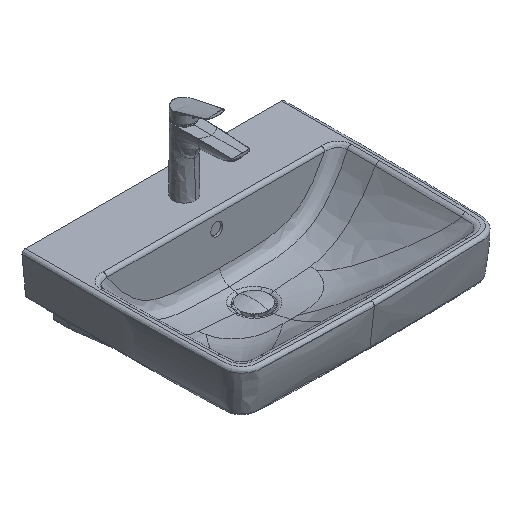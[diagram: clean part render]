
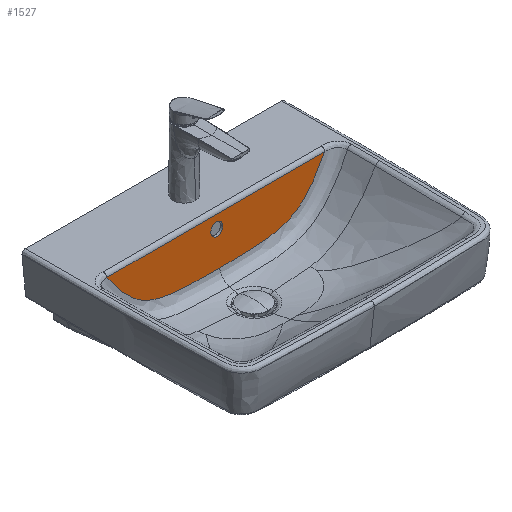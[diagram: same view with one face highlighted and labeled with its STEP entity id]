
A CAD part, isometric view. The second image highlights one B-rep face of the part: STEP entity #1527.
In plain terms, the highlighted planar face has unit normal (0, -0.996, 0.087).
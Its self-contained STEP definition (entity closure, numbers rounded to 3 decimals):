
#452=B_SPLINE_CURVE_WITH_KNOTS('',1,(#87740,#87741),.UNSPECIFIED.,.F.,.F.,
(2,2),(0.,453.553),.UNSPECIFIED.);
#529=B_SPLINE_CURVE_WITH_KNOTS('',3,(#89973,#89974,#89975,#89976,#89977,
#89978,#89979,#89980,#89981,#89982,#89983,#89984,#89985,#89986,#89987,#89988,
#89989,#89990,#89991,#89992,#89993,#89994,#89995,#89996,#89997,#89998,#89999,
#90000,#90001,#90002,#90003,#90004),.UNSPECIFIED.,.F.,.F.,(4,2,2,2,2,2,
2,2,2,2,2,2,2,2,2,4),(114.389,137.796,161.203,
184.609,196.313,208.016,231.423,254.829,
278.236,301.643,348.456,395.269,418.676,
442.082,465.489,488.896),.UNSPECIFIED.);
#583=B_SPLINE_CURVE_WITH_KNOTS('',3,(#90744,#90745,#90746,#90747,#90748,
#90749,#90750,#90751,#90752,#90753,#90754,#90755,#90756,#90757,#90758,#90759,
#90760,#90761,#90762,#90763,#90764,#90765,#90766,#90767,#90768,#90769,#90770,
#90771,#90772,#90773,#90774,#90775),.UNSPECIFIED.,.F.,.F.,(4,2,2,2,2,2,
2,2,2,2,2,2,2,2,2,4),(114.389,137.796,161.203,
184.609,196.313,208.016,231.423,254.829,
278.236,301.643,348.456,395.269,418.676,
442.082,465.489,488.896),.UNSPECIFIED.);
#1527=ADVANCED_FACE('',(#2055,#1683),#7541,.T.);
#1683=FACE_BOUND('',#2571,.T.);
#2055=FACE_OUTER_BOUND('',#2570,.T.);
#2570=EDGE_LOOP('',(#4455,#4456,#4457));
#2571=EDGE_LOOP('',(#4458,#4459));
#4455=ORIENTED_EDGE('',*,*,#5551,.T.);
#4456=ORIENTED_EDGE('',*,*,#5481,.F.);
#4457=ORIENTED_EDGE('',*,*,#5399,.F.);
#4458=ORIENTED_EDGE('',*,*,#5962,.T.);
#4459=ORIENTED_EDGE('',*,*,#5960,.T.);
#5399=EDGE_CURVE('',#6816,#6817,#452,.T.);
#5481=EDGE_CURVE('',#6817,#6884,#529,.T.);
#5551=EDGE_CURVE('',#6816,#6884,#583,.T.);
#5960=EDGE_CURVE('',#7088,#7089,#6433,.T.);
#5962=EDGE_CURVE('',#7089,#7088,#6435,.T.);
#6433=(
BOUNDED_CURVE()
B_SPLINE_CURVE(2,(#95838,#95839,#95840,#95841,#95842),.UNSPECIFIED.,.F.,
 .F.)
B_SPLINE_CURVE_WITH_KNOTS((3,2,3),(-39.27,-19.635,
0.),.UNSPECIFIED.)
CURVE()
GEOMETRIC_REPRESENTATION_ITEM()
RATIONAL_B_SPLINE_CURVE((1.,0.707,1.,0.707,1.))
REPRESENTATION_ITEM('')
);
#6435=(
BOUNDED_CURVE()
B_SPLINE_CURVE(2,(#95848,#95849,#95850,#95851,#95852),.UNSPECIFIED.,.F.,
 .F.)
B_SPLINE_CURVE_WITH_KNOTS((3,2,3),(-39.27,-19.635,
0.),.UNSPECIFIED.)
CURVE()
GEOMETRIC_REPRESENTATION_ITEM()
RATIONAL_B_SPLINE_CURVE((1.,0.707,1.,0.707,1.))
REPRESENTATION_ITEM('')
);
#6816=VERTEX_POINT('',#85997);
#6817=VERTEX_POINT('',#85998);
#6884=VERTEX_POINT('',#86065);
#7088=VERTEX_POINT('',#86269);
#7089=VERTEX_POINT('',#86270);
#7541=PLANE('',#7639);
#7639=AXIS2_PLACEMENT_3D('',#85775,#7721,$);
#7721=DIRECTION('',(0.,-0.996,0.087));
#85775=CARTESIAN_POINT('',(275.18,91.163,-113.855));
#85997=CARTESIAN_POINT('',(-223.787,100.054,-12.239));
#85998=CARTESIAN_POINT('',(229.765,100.054,-12.239));
#86065=CARTESIAN_POINT('',(2.989,91.977,-104.559));
#86269=CARTESIAN_POINT('',(-9.511,97.87,-37.197));
#86270=CARTESIAN_POINT('',(15.489,97.87,-37.197));
#87740=CARTESIAN_POINT('',(-223.787,100.054,-12.239));
#87741=CARTESIAN_POINT('',(229.765,100.054,-12.239));
#89973=CARTESIAN_POINT('',(229.765,100.054,-12.239));
#89974=CARTESIAN_POINT('',(226.772,99.63,-17.082));
#89975=CARTESIAN_POINT('',(223.654,99.217,-21.801));
#89976=CARTESIAN_POINT('',(217.203,98.414,-30.982));
#89977=CARTESIAN_POINT('',(213.863,98.023,-35.446));
#89978=CARTESIAN_POINT('',(206.975,97.266,-44.1));
#89979=CARTESIAN_POINT('',(203.46,96.902,-48.262));
#89980=CARTESIAN_POINT('',(197.941,96.369,-54.349));
#89981=CARTESIAN_POINT('',(196.096,96.197,-56.316));
#89982=CARTESIAN_POINT('',(192.355,95.859,-60.183));
#89983=CARTESIAN_POINT('',(190.467,95.694,-62.07));
#89984=CARTESIAN_POINT('',(184.726,95.214,-67.559));
#89985=CARTESIAN_POINT('',(180.785,94.914,-70.989));
#89986=CARTESIAN_POINT('',(172.684,94.365,-77.263));
#89987=CARTESIAN_POINT('',(168.507,94.116,-80.108));
#89988=CARTESIAN_POINT('',(159.891,93.671,-85.186));
#89989=CARTESIAN_POINT('',(155.452,93.476,-87.42));
#89990=CARTESIAN_POINT('',(146.305,93.135,-91.318));
#89991=CARTESIAN_POINT('',(141.599,92.989,-92.984));
#89992=CARTESIAN_POINT('',(127.022,92.614,-97.277));
#89993=CARTESIAN_POINT('',(116.617,92.444,-99.213));
#89994=CARTESIAN_POINT('',(94.743,92.212,-101.863));
#89995=CARTESIAN_POINT('',(83.379,92.149,-102.589));
#89996=CARTESIAN_POINT('',(66.201,92.082,-103.354));
#89997=CARTESIAN_POINT('',(60.442,92.064,-103.555));
#89998=CARTESIAN_POINT('',(48.888,92.034,-103.904));
#89999=CARTESIAN_POINT('',(43.097,92.021,-104.052));
#90000=CARTESIAN_POINT('',(31.538,91.999,-104.303));
#90001=CARTESIAN_POINT('',(25.777,91.99,-104.402));
#90002=CARTESIAN_POINT('',(14.344,91.98,-104.52));
#90003=CARTESIAN_POINT('',(8.683,91.979,-104.536));
#90004=CARTESIAN_POINT('',(2.989,91.977,-104.559));
#90744=CARTESIAN_POINT('',(-223.787,100.054,-12.239));
#90745=CARTESIAN_POINT('',(-220.794,99.63,-17.082));
#90746=CARTESIAN_POINT('',(-217.676,99.217,-21.801));
#90747=CARTESIAN_POINT('',(-211.225,98.414,-30.982));
#90748=CARTESIAN_POINT('',(-207.886,98.023,-35.446));
#90749=CARTESIAN_POINT('',(-200.997,97.266,-44.1));
#90750=CARTESIAN_POINT('',(-197.483,96.902,-48.262));
#90751=CARTESIAN_POINT('',(-191.964,96.369,-54.349));
#90752=CARTESIAN_POINT('',(-190.119,96.197,-56.316));
#90753=CARTESIAN_POINT('',(-186.378,95.859,-60.183));
#90754=CARTESIAN_POINT('',(-184.49,95.694,-62.07));
#90755=CARTESIAN_POINT('',(-178.749,95.214,-67.559));
#90756=CARTESIAN_POINT('',(-174.807,94.914,-70.989));
#90757=CARTESIAN_POINT('',(-166.706,94.365,-77.263));
#90758=CARTESIAN_POINT('',(-162.53,94.116,-80.108));
#90759=CARTESIAN_POINT('',(-153.913,93.671,-85.186));
#90760=CARTESIAN_POINT('',(-149.474,93.476,-87.42));
#90761=CARTESIAN_POINT('',(-140.328,93.135,-91.318));
#90762=CARTESIAN_POINT('',(-135.621,92.989,-92.984));
#90763=CARTESIAN_POINT('',(-121.045,92.614,-97.277));
#90764=CARTESIAN_POINT('',(-110.639,92.444,-99.213));
#90765=CARTESIAN_POINT('',(-88.765,92.212,-101.863));
#90766=CARTESIAN_POINT('',(-77.401,92.149,-102.589));
#90767=CARTESIAN_POINT('',(-60.223,92.082,-103.354));
#90768=CARTESIAN_POINT('',(-54.464,92.064,-103.555));
#90769=CARTESIAN_POINT('',(-42.91,92.034,-103.904));
#90770=CARTESIAN_POINT('',(-37.119,92.021,-104.052));
#90771=CARTESIAN_POINT('',(-25.56,91.999,-104.303));
#90772=CARTESIAN_POINT('',(-19.8,91.99,-104.402));
#90773=CARTESIAN_POINT('',(-8.366,91.98,-104.52));
#90774=CARTESIAN_POINT('',(-2.706,91.979,-104.536));
#90775=CARTESIAN_POINT('',(2.989,91.977,-104.559));
#95838=CARTESIAN_POINT('',(-9.511,97.87,-37.197));
#95839=CARTESIAN_POINT('',(-9.511,98.959,-24.745));
#95840=CARTESIAN_POINT('',(2.989,98.959,-24.745));
#95841=CARTESIAN_POINT('',(15.489,98.959,-24.745));
#95842=CARTESIAN_POINT('',(15.489,97.87,-37.197));
#95848=CARTESIAN_POINT('',(15.489,97.87,-37.197));
#95849=CARTESIAN_POINT('',(15.489,96.781,-49.649));
#95850=CARTESIAN_POINT('',(2.989,96.781,-49.649));
#95851=CARTESIAN_POINT('',(-9.511,96.781,-49.649));
#95852=CARTESIAN_POINT('',(-9.511,97.87,-37.197));
